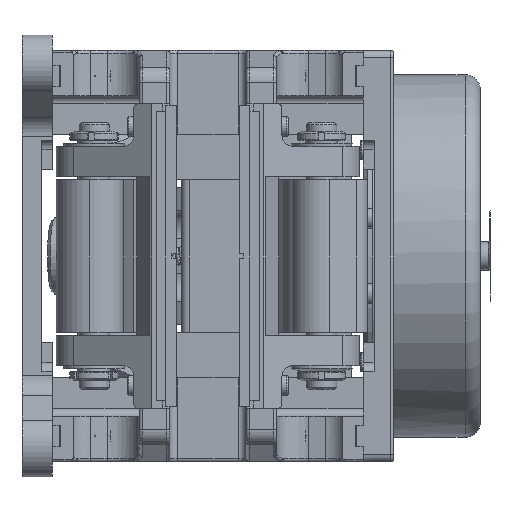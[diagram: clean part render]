
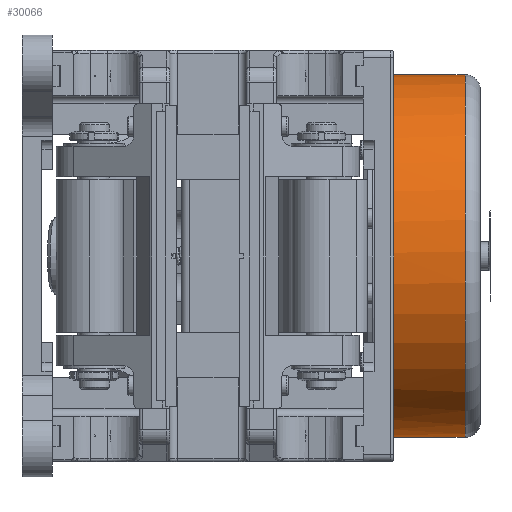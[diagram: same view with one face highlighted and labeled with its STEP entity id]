
A CAD part, front view. The second image highlights one B-rep face of the part: STEP entity #30066.
In plain terms, the highlighted cylindrical face has radius 119 mm (diameter 238 mm), a full revolution.
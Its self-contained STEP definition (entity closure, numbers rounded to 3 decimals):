
#3526=FACE_OUTER_BOUND('',#5321,.T.);
#5321=EDGE_LOOP('',(#26568,#26569,#26570,#26571,#26572,#26573,#26574,#26575,
#26576));
#7393=LINE('',#59247,#9467);
#9467=VECTOR('',#41683,119.);
#9581=CIRCLE('',#30246,119.);
#9582=CIRCLE('',#30247,119.);
#9583=CIRCLE('',#30248,119.);
#9584=CIRCLE('',#30249,119.);
#11059=CIRCLE('',#33264,119.);
#11060=CIRCLE('',#33265,119.);
#11061=CIRCLE('',#33266,119.);
#11204=VERTEX_POINT('',#42111);
#11205=VERTEX_POINT('',#42112);
#11206=VERTEX_POINT('',#42114);
#11207=VERTEX_POINT('',#42116);
#13858=VERTEX_POINT('',#59242);
#13859=VERTEX_POINT('',#59243);
#13860=VERTEX_POINT('',#59245);
#14053=EDGE_CURVE('',#11204,#11205,#9581,.T.);
#14054=EDGE_CURVE('',#11206,#11204,#9582,.T.);
#14055=EDGE_CURVE('',#11207,#11206,#9583,.T.);
#14057=EDGE_CURVE('',#11205,#11207,#9584,.T.);
#18102=EDGE_CURVE('',#13858,#13859,#11059,.T.);
#18103=EDGE_CURVE('',#13860,#13858,#11060,.T.);
#18104=EDGE_CURVE('',#13860,#11205,#7393,.T.);
#18105=EDGE_CURVE('',#13859,#13860,#11061,.T.);
#26568=ORIENTED_EDGE('',*,*,#18102,.F.);
#26569=ORIENTED_EDGE('',*,*,#18103,.F.);
#26570=ORIENTED_EDGE('',*,*,#18104,.T.);
#26571=ORIENTED_EDGE('',*,*,#14057,.T.);
#26572=ORIENTED_EDGE('',*,*,#14055,.T.);
#26573=ORIENTED_EDGE('',*,*,#14054,.T.);
#26574=ORIENTED_EDGE('',*,*,#14053,.T.);
#26575=ORIENTED_EDGE('',*,*,#18104,.F.);
#26576=ORIENTED_EDGE('',*,*,#18105,.F.);
#27078=CYLINDRICAL_SURFACE('',#33263,119.);
#30066=ADVANCED_FACE('',(#3526),#27078,.T.);
#30246=AXIS2_PLACEMENT_3D('',#42113,#33650,#33651);
#30247=AXIS2_PLACEMENT_3D('',#42115,#33652,#33653);
#30248=AXIS2_PLACEMENT_3D('',#42117,#33654,#33655);
#30249=AXIS2_PLACEMENT_3D('',#42119,#33657,#33658);
#33263=AXIS2_PLACEMENT_3D('',#59241,#41677,#41678);
#33264=AXIS2_PLACEMENT_3D('',#59244,#41679,#41680);
#33265=AXIS2_PLACEMENT_3D('',#59246,#41681,#41682);
#33266=AXIS2_PLACEMENT_3D('',#59248,#41684,#41685);
#33650=DIRECTION('center_axis',(1.,0.,0.));
#33651=DIRECTION('ref_axis',(0.,0.782,0.623));
#33652=DIRECTION('center_axis',(1.,0.,0.));
#33653=DIRECTION('ref_axis',(0.,0.782,0.623));
#33654=DIRECTION('center_axis',(1.,0.,0.));
#33655=DIRECTION('ref_axis',(0.,0.782,0.623));
#33657=DIRECTION('center_axis',(1.,0.,0.));
#33658=DIRECTION('ref_axis',(0.,0.782,0.623));
#41677=DIRECTION('center_axis',(1.,0.,0.));
#41678=DIRECTION('ref_axis',(0.,0.782,0.623));
#41679=DIRECTION('center_axis',(1.,0.,0.));
#41680=DIRECTION('ref_axis',(0.,0.782,0.623));
#41681=DIRECTION('center_axis',(1.,0.,0.));
#41682=DIRECTION('ref_axis',(0.,0.782,0.623));
#41683=DIRECTION('',(-1.,0.,0.));
#41684=DIRECTION('center_axis',(1.,0.,0.));
#41685=DIRECTION('ref_axis',(0.,0.782,0.623));
#42111=CARTESIAN_POINT('',(117.1,310.,269.));
#42112=CARTESIAN_POINT('',(117.1,216.962,75.805));
#42113=CARTESIAN_POINT('Origin',(117.1,310.,150.));
#42114=CARTESIAN_POINT('',(117.1,403.038,224.195));
#42115=CARTESIAN_POINT('Origin',(117.1,310.,150.));
#42116=CARTESIAN_POINT('',(117.1,310.,31.));
#42117=CARTESIAN_POINT('Origin',(117.1,310.,150.));
#42119=CARTESIAN_POINT('Origin',(117.1,310.,150.));
#59241=CARTESIAN_POINT('Origin',(142.924,310.,150.));
#59242=CARTESIAN_POINT('',(168.748,403.038,224.195));
#59243=CARTESIAN_POINT('',(168.748,235.805,243.038));
#59244=CARTESIAN_POINT('Origin',(168.748,310.,150.));
#59245=CARTESIAN_POINT('',(168.748,216.962,75.805));
#59246=CARTESIAN_POINT('Origin',(168.748,310.,150.));
#59247=CARTESIAN_POINT('',(142.924,216.962,75.805));
#59248=CARTESIAN_POINT('Origin',(168.748,310.,150.));
